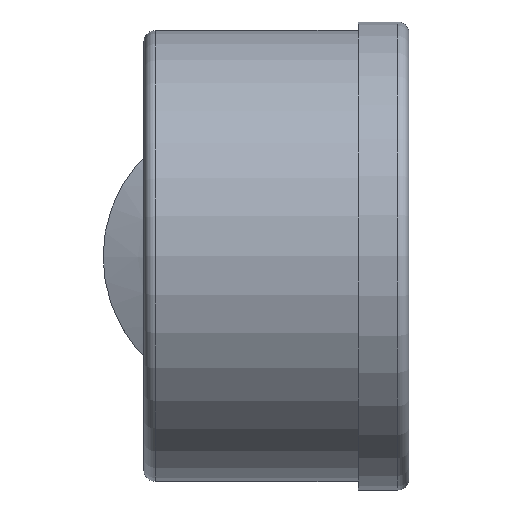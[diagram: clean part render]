
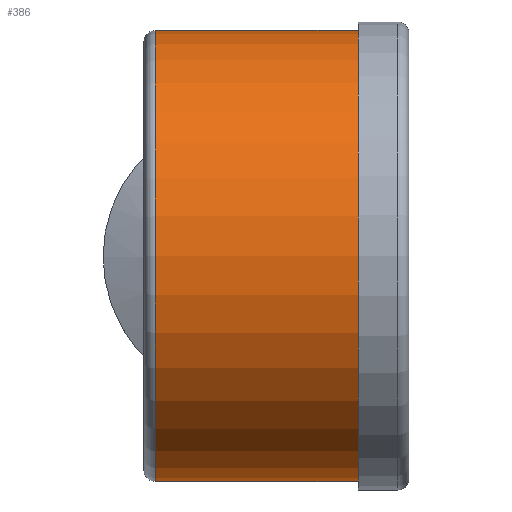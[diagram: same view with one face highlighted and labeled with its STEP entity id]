
A CAD part, top view. The second image highlights one B-rep face of the part: STEP entity #386.
In plain terms, the highlighted cylindrical face has radius 40 mm (diameter 80 mm), a full revolution.
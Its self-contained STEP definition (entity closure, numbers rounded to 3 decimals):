
#20=FACE_BOUND('',#94,.T.);
#21=FACE_BOUND('',#95,.T.);
#63=FACE_OUTER_BOUND('',#93,.T.);
#93=EDGE_LOOP('',(#318));
#94=EDGE_LOOP('',(#319,#320));
#95=EDGE_LOOP('',(#321));
#144=LINE('',#648,#165);
#165=VECTOR('',#523,22.);
#172=CIRCLE('',#424,40.);
#174=CIRCLE('',#427,40.);
#206=VERTEX_POINT('',#639);
#208=VERTEX_POINT('',#644);
#209=VERTEX_POINT('',#646);
#210=VERTEX_POINT('',#647);
#248=EDGE_CURVE('',#206,#206,#172,.T.);
#250=EDGE_CURVE('',#208,#208,#174,.T.);
#251=EDGE_CURVE('',#209,#210,#144,.T.);
#318=ORIENTED_EDGE('',*,*,#250,.T.);
#319=ORIENTED_EDGE('',*,*,#251,.T.);
#320=ORIENTED_EDGE('',*,*,#251,.F.);
#321=ORIENTED_EDGE('',*,*,#248,.F.);
#356=CYLINDRICAL_SURFACE('',#426,40.);
#386=ADVANCED_FACE('',(#63,#20,#21),#356,.T.);
#424=AXIS2_PLACEMENT_3D('',#640,#515,#516);
#426=AXIS2_PLACEMENT_3D('',#643,#519,#520);
#427=AXIS2_PLACEMENT_3D('',#645,#521,#522);
#515=DIRECTION('center_axis',(-1.,0.,0.));
#516=DIRECTION('ref_axis',(0.,0.,-1.));
#519=DIRECTION('center_axis',(-1.,0.,0.));
#520=DIRECTION('ref_axis',(0.,0.,1.));
#521=DIRECTION('center_axis',(-1.,0.,0.));
#522=DIRECTION('ref_axis',(0.,0.,1.));
#523=DIRECTION('',(-1.,0.,0.));
#639=CARTESIAN_POINT('',(-16.,0.,40.));
#640=CARTESIAN_POINT('Origin',(-16.,0.,0.));
#643=CARTESIAN_POINT('Origin',(1.,0.,0.));
#644=CARTESIAN_POINT('',(20.,0.,40.));
#645=CARTESIAN_POINT('Origin',(20.,0.,0.));
#646=CARTESIAN_POINT('',(11.,0.,-40.));
#647=CARTESIAN_POINT('',(-11.,0.,-40.));
#648=CARTESIAN_POINT('',(1.,0.,-40.));
